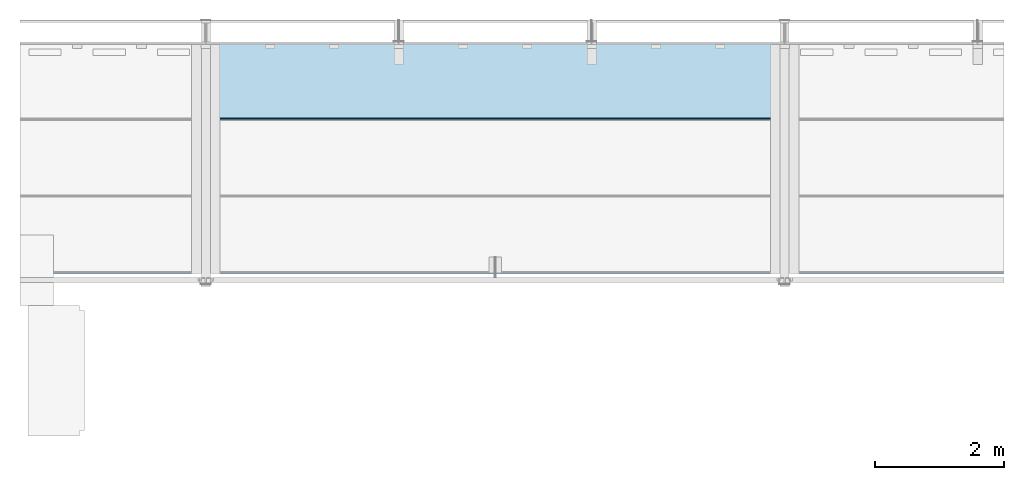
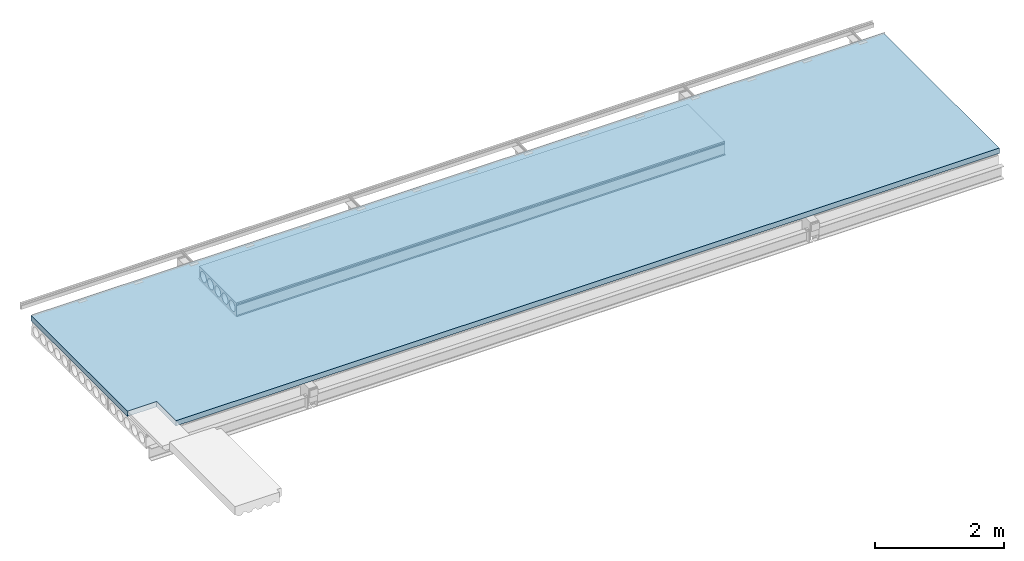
# One storey, part 6 of 8: 2 slabs.
"""IFC2X3 building model written with IfcOpenShell, lengths in millimetres."""

from ifc_helpers import new_model, entity, si_unit, converted_unit, derived_unit, direction, frame, origin_with_axes, place, context, subcontext, project, spatial, polyline, outline, extrude, boolean, faceted_brep, material, type_object, element, save


model = new_model("IFC2X3")

# Units and contexts
model_context = context("Model", 3, precision=0.01, world=frame((0.0, 4.29681676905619e-09, 0.0)), true_north=direction((4.01073788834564e-13, 1.0)))
plan_context = context("Plan", 3, precision=0.01, world=frame((0.0, 4.29681676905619e-09, 0.0)), true_north=direction((4.01073788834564e-13, 1.0)))
body_context = subcontext(model_context, "Body", "Model", "MODEL_VIEW")
ifc_project = project(units=[converted_unit("PLANEANGLEUNIT", "DEGREE", entity("IfcPositiveLengthMeasure", 0.0174532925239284), si_unit("PLANEANGLEUNIT", "RADIAN"), dimensions=[0, 0, 0, 0, 0, 0, 0]), si_unit("AREAUNIT", "SQUARE_METRE"), si_unit("LENGTHUNIT", "METRE", prefix="MILLI"), si_unit("MASSUNIT", "GRAM", prefix="KILO"), si_unit("POWERUNIT", "WATT"), si_unit("PRESSUREUNIT", "PASCAL"), si_unit("FORCEUNIT", "NEWTON", prefix="KILO"), si_unit("ELECTRICVOLTAGEUNIT", "VOLT"), si_unit("ELECTRICCURRENTUNIT", "AMPERE"), si_unit("THERMODYNAMICTEMPERATUREUNIT", "DEGREE_CELSIUS"), si_unit("TIMEUNIT", "SECOND"), si_unit("VOLUMEUNIT", "CUBIC_METRE"), derived_unit("LINEARVELOCITYUNIT", [(si_unit("LENGTHUNIT", "METRE"), 1), (si_unit("TIMEUNIT", "SECOND"), -1)]), derived_unit("VOLUMETRICFLOWRATEUNIT", [(si_unit("VOLUMEUNIT", "CUBIC_METRE"), 1), (si_unit("TIMEUNIT", "SECOND"), -1)]), derived_unit("THERMALTRANSMITTANCEUNIT", [(si_unit("POWERUNIT", "WATT"), 1), (si_unit("THERMODYNAMICTEMPERATUREUNIT", "KELVIN"), -1), (si_unit("AREAUNIT", "SQUARE_METRE"), -1)]), derived_unit("SOUNDPRESSUREUNIT", [(si_unit("PRESSUREUNIT", "PASCAL"), 1)])], contexts=[model_context, plan_context])

# Site, building, storey
site_placement = place(None, frame((0.0, -4.29681676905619e-09, 0.0), z_axis=(0.0, 0.0, 1.0), x_axis=(1.0, 0.0, 0.0)))
site = spatial("IfcSite", under=ifc_project, at=site_placement, Name="Gardermoen", CompositionType="ELEMENT")
building_placement = place(site_placement, frame((0.0, 4.29681676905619e-09, 0.0), z_axis=(0.0, 0.0, 1.0), x_axis=(1.0, 0.0, 0.0)))
building = spatial("IfcBuilding", under=site, at=building_placement, Name="TH", CompositionType="ELEMENT")
storey_placement = place(building_placement, origin_with_axes())
storey = spatial("IfcBuildingStorey", under=building, at=storey_placement, Name="G", CompositionType="ELEMENT", Elevation=0.0)

# Slabs
ifc_material = material(Name="CONCRETE/C45/55")
slab_type_1 = type_object("IfcSlabType", Name="HD265", PredefinedType="NOTDEFINED")
slab_1_placement = place(storey_placement, frame((898116.001717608, 483875.994490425, 213427.5), z_axis=(0.0, 0.0, 1.0), x_axis=(1.0, 0.0, 0.0)))
solid = boolean("DIFFERENCE", boolean("DIFFERENCE", boolean("DIFFERENCE", boolean("DIFFERENCE", boolean("DIFFERENCE", boolean("DIFFERENCE", boolean("DIFFERENCE", boolean("DIFFERENCE", extrude(outline(polyline([(-583.380004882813, -132.5), (-600.0, -122.5), (-600.0, -112.5), (-585.0, -102.5), (-577.5, 77.5), (-570.0, 92.5), (-577.5, 107.5), (-577.5, 132.5), (577.5, 132.5), (577.5, 107.5), (570.0, 92.5), (577.5, 77.5), (585.0, -102.5), (600.0, -112.5), (600.0, -122.5), (583.380004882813, -132.5), (-583.380004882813, -132.5)]), holes=[polyline([(-539.238420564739, 15.2249996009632), (-540.184065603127, 7.63858945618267), (-540.5, 0.0), (-540.184065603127, -7.63858945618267), (-539.238420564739, -15.2249996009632), (-537.669524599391, -22.7074075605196), (-535.488094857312, -30.0347009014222), (-532.709032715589, -37.1568267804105), (-529.351321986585, -44.0251338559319), (-525.437899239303, -50.5927046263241), (-520.995497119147, -56.8146759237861), (-516.05446173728, -62.6485453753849), (-510.648545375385, -68.0544617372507), (-504.814675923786, -72.9954971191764), (-498.592704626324, -77.437899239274), (-492.025133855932, -81.3513219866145), (-485.15682678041, -84.7090327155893), (-478.034700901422, -87.4880948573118), (-470.707407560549, -89.6695245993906), (-463.224999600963, -91.2384205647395), (-455.638589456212, -92.1840656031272), (-448.0, -92.5), (-440.361410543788, -92.1840656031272), (-432.775000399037, -91.2384205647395), (-425.292592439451, -89.6695245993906), (-417.965299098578, -87.4880948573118), (-410.84317321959, -84.7090327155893), (-403.974866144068, -81.3513219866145), (-397.407295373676, -77.437899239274), (-391.185324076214, -72.9954971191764), (-385.351454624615, -68.0544617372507), (-379.94553826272, -62.6485453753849), (-375.004502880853, -56.8146759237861), (-370.562100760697, -50.5927046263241), (-366.648678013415, -44.0251338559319), (-363.290967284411, -37.1568267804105), (-360.511905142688, -30.0347009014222), (-358.330475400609, -22.7074075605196), (-356.761579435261, -15.2249996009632), (-355.815934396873, -7.63858945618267), (-355.5, 0.0), (-355.815934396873, 7.63858945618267), (-356.761579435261, 15.2249996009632), (-358.330475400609, 22.7074075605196), (-360.511905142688, 30.0347009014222), (-363.290967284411, 37.1568267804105), (-366.648678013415, 44.0251338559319), (-370.562100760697, 50.5927046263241), (-375.004502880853, 56.8146759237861), (-379.94553826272, 62.6485453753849), (-385.351454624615, 68.0544617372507), (-391.185324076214, 72.9954971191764), (-397.407295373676, 77.437899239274), (-403.974866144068, 81.3513219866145), (-410.84317321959, 84.7090327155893), (-417.965299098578, 87.4880948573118), (-425.292592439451, 89.6695245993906), (-432.775000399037, 91.2384205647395), (-440.361410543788, 92.1840656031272), (-448.0, 92.5), (-455.638589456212, 92.1840656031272), (-463.224999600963, 91.2384205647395), (-470.707407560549, 89.6695245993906), (-478.034700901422, 87.4880948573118), (-485.15682678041, 84.7090327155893), (-492.025133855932, 81.3513219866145), (-498.592704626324, 77.437899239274), (-504.814675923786, 72.9954971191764), (-510.648545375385, 68.0544617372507), (-516.05446173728, 62.6485453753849), (-520.995497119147, 56.8146759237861), (-525.437899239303, 50.5927046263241), (-529.351321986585, 44.0251338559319), (-532.709032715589, 37.1568267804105), (-535.488094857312, 30.0347009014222), (-537.669524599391, 22.7074075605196), (-539.238420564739, 15.2249996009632)]), polyline([(-315.238420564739, 15.2249996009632), (-316.184065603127, 7.63858945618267), (-316.5, 0.0), (-316.184065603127, -7.63858945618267), (-315.238420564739, -15.2249996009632), (-313.669524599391, -22.7074075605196), (-311.488094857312, -30.0347009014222), (-308.709032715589, -37.1568267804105), (-305.351321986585, -44.0251338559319), (-301.437899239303, -50.5927046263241), (-296.995497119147, -56.8146759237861), (-292.05446173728, -62.6485453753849), (-286.648545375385, -68.0544617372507), (-280.814675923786, -72.9954971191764), (-274.592704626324, -77.437899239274), (-268.025133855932, -81.3513219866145), (-261.15682678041, -84.7090327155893), (-254.034700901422, -87.4880948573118), (-246.707407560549, -89.6695245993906), (-239.224999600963, -91.2384205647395), (-231.638589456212, -92.1840656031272), (-224.0, -92.5), (-216.361410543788, -92.1840656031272), (-208.775000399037, -91.2384205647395), (-201.292592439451, -89.6695245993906), (-193.965299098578, -87.4880948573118), (-186.84317321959, -84.7090327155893), (-179.974866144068, -81.3513219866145), (-173.407295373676, -77.437899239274), (-167.185324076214, -72.9954971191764), (-161.351454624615, -68.0544617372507), (-155.94553826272, -62.6485453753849), (-151.004502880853, -56.8146759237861), (-146.562100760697, -50.5927046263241), (-142.648678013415, -44.0251338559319), (-139.290967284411, -37.1568267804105), (-136.511905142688, -30.0347009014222), (-134.330475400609, -22.7074075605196), (-132.761579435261, -15.2249996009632), (-131.815934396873, -7.63858945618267), (-131.5, 0.0), (-131.815934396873, 7.63858945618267), (-132.761579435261, 15.2249996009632), (-134.330475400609, 22.7074075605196), (-136.511905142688, 30.0347009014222), (-139.290967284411, 37.1568267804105), (-142.648678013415, 44.0251338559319), (-146.562100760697, 50.5927046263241), (-151.004502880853, 56.8146759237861), (-155.94553826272, 62.6485453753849), (-161.351454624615, 68.0544617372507), (-167.185324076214, 72.9954971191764), (-173.407295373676, 77.437899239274), (-179.974866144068, 81.3513219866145), (-186.84317321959, 84.7090327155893), (-193.965299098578, 87.4880948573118), (-201.292592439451, 89.6695245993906), (-208.775000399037, 91.2384205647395), (-216.361410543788, 92.1840656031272), (-224.0, 92.5), (-231.638589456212, 92.1840656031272), (-239.224999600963, 91.2384205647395), (-246.707407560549, 89.6695245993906), (-254.034700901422, 87.4880948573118), (-261.15682678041, 84.7090327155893), (-268.025133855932, 81.3513219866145), (-274.592704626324, 77.437899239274), (-280.814675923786, 72.9954971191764), (-286.648545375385, 68.0544617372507), (-292.05446173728, 62.6485453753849), (-296.995497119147, 56.8146759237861), (-301.437899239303, 50.5927046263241), (-305.351321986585, 44.0251338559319), (-308.709032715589, 37.1568267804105), (-311.488094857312, 30.0347009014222), (-313.669524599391, 22.7074075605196), (-315.238420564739, 15.2249996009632)]), polyline([(-91.2384205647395, 15.2249996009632), (-92.1840656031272, 7.63858945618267), (-92.5, 0.0), (-92.1840656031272, -7.63858945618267), (-91.2384205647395, -15.2249996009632), (-89.6695245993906, -22.7074075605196), (-87.4880948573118, -30.0347009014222), (-84.7090327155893, -37.1568267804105), (-81.3513219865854, -44.0251338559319), (-77.4378992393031, -50.5927046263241), (-72.9954971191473, -56.8146759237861), (-68.0544617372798, -62.6485453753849), (-62.6485453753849, -68.0544617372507), (-56.8146759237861, -72.9954971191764), (-50.5927046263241, -77.437899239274), (-44.0251338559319, -81.3513219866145), (-37.1568267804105, -84.7090327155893), (-30.0347009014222, -87.4880948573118), (-22.7074075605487, -89.6695245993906), (-15.2249996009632, -91.2384205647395), (-7.63858945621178, -92.1840656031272), (0.0, -92.5), (7.63858945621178, -92.1840656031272), (15.2249996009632, -91.2384205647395), (22.7074075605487, -89.6695245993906), (30.0347009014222, -87.4880948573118), (37.1568267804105, -84.7090327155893), (44.0251338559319, -81.3513219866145), (50.5927046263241, -77.437899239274), (56.8146759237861, -72.9954971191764), (62.6485453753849, -68.0544617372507), (68.0544617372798, -62.6485453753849), (72.9954971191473, -56.8146759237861), (77.4378992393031, -50.5927046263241), (81.3513219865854, -44.0251338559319), (84.7090327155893, -37.1568267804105), (87.4880948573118, -30.0347009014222), (89.6695245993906, -22.7074075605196), (91.2384205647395, -15.2249996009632), (92.1840656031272, -7.63858945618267), (92.5, 0.0), (92.1840656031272, 7.63858945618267), (91.2384205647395, 15.2249996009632), (89.6695245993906, 22.7074075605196), (87.4880948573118, 30.0347009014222), (84.7090327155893, 37.1568267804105), (81.3513219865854, 44.0251338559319), (77.4378992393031, 50.5927046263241), (72.9954971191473, 56.8146759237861), (68.0544617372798, 62.6485453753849), (62.6485453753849, 68.0544617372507), (56.8146759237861, 72.9954971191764), (50.5927046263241, 77.437899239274), (44.0251338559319, 81.3513219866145), (37.1568267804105, 84.7090327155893), (30.0347009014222, 87.4880948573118), (22.7074075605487, 89.6695245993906), (15.2249996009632, 91.2384205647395), (7.63858945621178, 92.1840656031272), (0.0, 92.5), (-7.63858945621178, 92.1840656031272), (-15.2249996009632, 91.2384205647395), (-22.7074075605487, 89.6695245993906), (-30.0347009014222, 87.4880948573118), (-37.1568267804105, 84.7090327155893), (-44.0251338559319, 81.3513219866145), (-50.5927046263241, 77.437899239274), (-56.8146759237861, 72.9954971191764), (-62.6485453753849, 68.0544617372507), (-68.0544617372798, 62.6485453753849), (-72.9954971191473, 56.8146759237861), (-77.4378992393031, 50.5927046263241), (-81.3513219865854, 44.0251338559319), (-84.7090327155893, 37.1568267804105), (-87.4880948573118, 30.0347009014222), (-89.6695245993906, 22.7074075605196), (-91.2384205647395, 15.2249996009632)]), polyline([(132.761579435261, 15.2249996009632), (131.815934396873, 7.63858945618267), (131.5, 0.0), (131.815934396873, -7.63858945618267), (132.761579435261, -15.2249996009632), (134.330475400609, -22.7074075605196), (136.511905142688, -30.0347009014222), (139.290967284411, -37.1568267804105), (142.648678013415, -44.0251338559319), (146.562100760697, -50.5927046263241), (151.004502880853, -56.8146759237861), (155.94553826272, -62.6485453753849), (161.351454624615, -68.0544617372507), (167.185324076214, -72.9954971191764), (173.407295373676, -77.437899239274), (179.974866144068, -81.3513219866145), (186.84317321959, -84.7090327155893), (193.965299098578, -87.4880948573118), (201.292592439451, -89.6695245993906), (208.775000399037, -91.2384205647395), (216.361410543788, -92.1840656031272), (224.0, -92.5), (231.638589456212, -92.1840656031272), (239.224999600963, -91.2384205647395), (246.707407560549, -89.6695245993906), (254.034700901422, -87.4880948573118), (261.15682678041, -84.7090327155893), (268.025133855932, -81.3513219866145), (274.592704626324, -77.437899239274), (280.814675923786, -72.9954971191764), (286.648545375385, -68.0544617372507), (292.05446173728, -62.6485453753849), (296.995497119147, -56.8146759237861), (301.437899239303, -50.5927046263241), (305.351321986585, -44.0251338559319), (308.709032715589, -37.1568267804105), (311.488094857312, -30.0347009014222), (313.669524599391, -22.7074075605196), (315.238420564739, -15.2249996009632), (316.184065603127, -7.63858945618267), (316.5, 0.0), (316.184065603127, 7.63858945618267), (315.238420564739, 15.2249996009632), (313.669524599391, 22.7074075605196), (311.488094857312, 30.0347009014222), (308.709032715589, 37.1568267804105), (305.351321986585, 44.0251338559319), (301.437899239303, 50.5927046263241), (296.995497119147, 56.8146759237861), (292.05446173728, 62.6485453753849), (286.648545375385, 68.0544617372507), (280.814675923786, 72.9954971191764), (274.592704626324, 77.437899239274), (268.025133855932, 81.3513219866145), (261.15682678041, 84.7090327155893), (254.034700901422, 87.4880948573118), (246.707407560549, 89.6695245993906), (239.224999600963, 91.2384205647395), (231.638589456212, 92.1840656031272), (224.0, 92.5), (216.361410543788, 92.1840656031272), (208.775000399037, 91.2384205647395), (201.292592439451, 89.6695245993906), (193.965299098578, 87.4880948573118), (186.84317321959, 84.7090327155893), (179.974866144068, 81.3513219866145), (173.407295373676, 77.437899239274), (167.185324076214, 72.9954971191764), (161.351454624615, 68.0544617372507), (155.94553826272, 62.6485453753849), (151.004502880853, 56.8146759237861), (146.562100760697, 50.5927046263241), (142.648678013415, 44.0251338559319), (139.290967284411, 37.1568267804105), (136.511905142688, 30.0347009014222), (134.330475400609, 22.7074075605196), (132.761579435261, 15.2249996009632)]), polyline([(356.761579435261, 15.2249996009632), (355.815934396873, 7.63858945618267), (355.5, 0.0), (355.815934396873, -7.63858945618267), (356.761579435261, -15.2249996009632), (358.330475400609, -22.7074075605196), (360.511905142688, -30.0347009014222), (363.290967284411, -37.1568267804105), (366.648678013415, -44.0251338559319), (370.562100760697, -50.5927046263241), (375.004502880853, -56.8146759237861), (379.94553826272, -62.6485453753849), (385.351454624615, -68.0544617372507), (391.185324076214, -72.9954971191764), (397.407295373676, -77.437899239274), (403.974866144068, -81.3513219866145), (410.84317321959, -84.7090327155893), (417.965299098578, -87.4880948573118), (425.292592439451, -89.6695245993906), (432.775000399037, -91.2384205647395), (440.361410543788, -92.1840656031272), (448.0, -92.5), (455.638589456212, -92.1840656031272), (463.224999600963, -91.2384205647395), (470.707407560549, -89.6695245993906), (478.034700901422, -87.4880948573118), (485.15682678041, -84.7090327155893), (492.025133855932, -81.3513219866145), (498.592704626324, -77.437899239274), (504.814675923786, -72.9954971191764), (510.648545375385, -68.0544617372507), (516.05446173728, -62.6485453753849), (520.995497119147, -56.8146759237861), (525.437899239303, -50.5927046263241), (529.351321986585, -44.0251338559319), (532.709032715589, -37.1568267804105), (535.488094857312, -30.0347009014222), (537.669524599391, -22.7074075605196), (539.238420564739, -15.2249996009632), (540.184065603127, -7.63858945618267), (540.5, 0.0), (540.184065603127, 7.63858945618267), (539.238420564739, 15.2249996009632), (537.669524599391, 22.7074075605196), (535.488094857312, 30.0347009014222), (532.709032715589, 37.1568267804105), (529.351321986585, 44.0251338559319), (525.437899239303, 50.5927046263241), (520.995497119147, 56.8146759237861), (516.05446173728, 62.6485453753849), (510.648545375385, 68.0544617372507), (504.814675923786, 72.9954971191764), (498.592704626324, 77.437899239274), (492.025133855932, 81.3513219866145), (485.15682678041, 84.7090327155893), (478.034700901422, 87.4880948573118), (470.707407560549, 89.6695245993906), (463.224999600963, 91.2384205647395), (455.638589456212, 92.1840656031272), (448.0, 92.5), (440.361410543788, 92.1840656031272), (432.775000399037, 91.2384205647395), (425.292592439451, 89.6695245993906), (417.965299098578, 87.4880948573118), (410.84317321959, 84.7090327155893), (403.974866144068, 81.3513219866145), (397.407295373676, 77.437899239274), (391.185324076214, 72.9954971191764), (385.351454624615, 68.0544617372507), (379.94553826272, 62.6485453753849), (375.004502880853, 56.8146759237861), (370.562100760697, 50.5927046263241), (366.648678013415, 44.0251338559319), (363.290967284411, 37.1568267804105), (360.511905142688, 30.0347009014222), (358.330475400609, 22.7074075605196), (356.761579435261, 15.2249996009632)])]), frame((8768.0, 0.0, 0.0), z_axis=(-1.0, 0.0, 6.61744490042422e-24), x_axis=(0.0, -1.0, 0.0)), (0.0, 0.0, 1.0), 8768.0), extrude(outline(polyline([(0.0, 0.0), (500.0, 0.0), (500.0, 99.9994277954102), (0.0, 99.9994277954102), (0.0, 0.0)])), frame((8134.02932431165, 392.005487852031, -17.4999999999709), z_axis=(0.0, 0.0, 1.0), x_axis=(1.0, 0.0, 0.0)), (0.0, 0.0, 1.0), 150.0)), extrude(outline(polyline([(0.0, 0.0), (500.0, 0.0), (500.0, 99.9994277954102), (0.0, 99.9994277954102), (0.0, 0.0)])), frame((7134.02932431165, 392.005487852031, -17.4999999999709), z_axis=(0.0, 0.0, 1.0), x_axis=(1.0, 0.0, 0.0)), (0.0, 0.0, 1.0), 150.0)), extrude(outline(polyline([(0.0, 0.0), (500.0, 0.0), (500.0, 99.9994277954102), (0.0, 99.9994277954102), (0.0, 0.0)])), frame((6134.02932431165, 392.005487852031, -17.4999999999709), z_axis=(0.0, 0.0, 1.0), x_axis=(1.0, 0.0, 0.0)), (0.0, 0.0, 1.0), 150.0)), extrude(outline(polyline([(0.0, 0.0), (500.0, 0.0), (500.0, 99.9994277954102), (0.0, 99.9994277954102), (0.0, 0.0)])), frame((5134.02932431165, 392.005487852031, -17.4999999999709), z_axis=(0.0, 0.0, 1.0), x_axis=(1.0, 0.0, 0.0)), (0.0, 0.0, 1.0), 150.0)), extrude(outline(polyline([(0.0, 0.0), (500.0, 0.0), (500.0, 99.9994277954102), (0.0, 99.9994277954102), (0.0, 0.0)])), frame((4134.02932431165, 392.005487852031, -17.4999999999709), z_axis=(0.0, 0.0, 1.0), x_axis=(1.0, 0.0, 0.0)), (0.0, 0.0, 1.0), 150.0)), extrude(outline(polyline([(0.0, 0.0), (500.0, 0.0), (500.0, 99.9994277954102), (0.0, 99.9994277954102), (0.0, 0.0)])), frame((3134.02932431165, 392.005487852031, -17.4999999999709), z_axis=(0.0, 0.0, 1.0), x_axis=(1.0, 0.0, 0.0)), (0.0, 0.0, 1.0), 150.0)), extrude(outline(polyline([(0.0, 0.0), (500.0, 0.0), (500.0, 99.9994277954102), (0.0, 99.9994277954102), (0.0, 0.0)])), frame((2134.02932431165, 392.005487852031, -17.4999999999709), z_axis=(0.0, 0.0, 1.0), x_axis=(1.0, 0.0, 0.0)), (0.0, 0.0, 1.0), 150.0)), extrude(outline(polyline([(0.0, 0.0), (500.0, 0.0), (500.0, 99.9994277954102), (0.0, 99.9994277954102), (0.0, 0.0)])), frame((1134.02932431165, 392.005487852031, -17.4999999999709), z_axis=(0.0, 0.0, 1.0), x_axis=(1.0, 0.0, 0.0)), (0.0, 0.0, 1.0), 150.0))
element("IfcSlab", 1, at=slab_1_placement, inside=storey, type_object=slab_type_1, material=ifc_material, Name="HULLDEKKE", ObjectType="HD265", PredefinedType="FLOOR", context=body_context, shape_type="CSG", body=[
    boolean("DIFFERENCE", solid, extrude(outline(polyline([(0.0, 0.0), (500.0, 0.0), (500.0, 99.9994277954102), (0.0, 99.9994277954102), (0.0, 0.0)])), frame((134.029324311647, 392.005487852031, -17.4999999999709), z_axis=(0.0, 0.0, 1.0), x_axis=(1.0, 0.0, 0.0)), (0.0, 0.0, 1.0), 150.0)),
])
slab_type_2 = type_object("IfcSlabType", Name="100*3600", PredefinedType="NOTDEFINED")
slab_2_placement = place(storey_placement, frame((844000.0, 484480.0, 213610.0), z_axis=(0.0, 0.0, 1.0), x_axis=(0.0, -1.0, 0.0)))
element("IfcSlab", 2, at=slab_2_placement, inside=storey, type_object=slab_type_2, Name="PÅSTØP", ObjectType="100*3600", PredefinedType="FLOOR", context=body_context, shape_type="Brep", body=[
    faceted_brep([(-0.00719726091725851, 66410.5848417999, -50.0), (-0.00719726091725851, 66410.5848417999, 50.0), (-0.00553926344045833, 51111.9061685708, 50.0), (-0.00553926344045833, 51111.9061685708, -50.0), (2999.99200327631, 51111.9061685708, -50.0), (2999.99200327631, 51111.9061685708, 50.0), (2999.99194335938, 51636.0000000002, 50.0), (2999.99194335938, 51636.0000000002, -50.0), (3599.99365234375, 51636.0000000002, 50.0), (3599.99365234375, 51636.0000000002, -50.0), (3599.99241243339, 66410.5848417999, 50.0), (3599.99241243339, 66410.5848417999, -50.0)], [[[0, 1, 2, 3]], [[4, 5, 6, 7]], [[7, 6, 8, 9]], [[10, 11, 9, 8]], [[3, 4, 7, 9, 11, 0]], [[1, 10, 8, 6, 5, 2]], [[11, 10, 1, 0]], [[5, 4, 3, 2]]], orient=[[False], [False], [False], [False], [False], [False], [False], [False]]),
])

save(model, "model.ifc")
